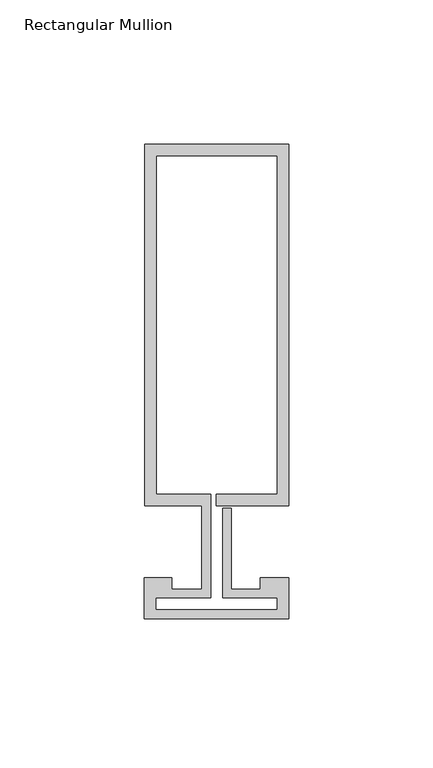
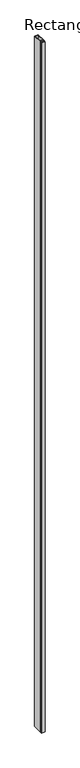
"""IFC4 building model written with IfcOpenShell, lengths in millimetres: member geometry, Rectangular Mullion : Reynaers_CW-50_Mullion-Transom_Vertical_125.5mm_Facecap-02A."""

from ifc_helpers import new_model, si_unit, frame, origin, place, context, project, spatial, polyline, outline, extrude, source, transform, mapped, element, save


def rectangular_mullion_c6ac059f(model_context):
    return source(origin(), model_context, "Body", "SweptSolid", [
        extrude(outline(polyline([(-24.8004059, 138.0), (25.1995941, 138.0), (25.1995941, 12.5), (0.0, 12.5), (0.0, 16.5), (21.1995941, 16.5), (21.1995941, 134.0), (-20.8004059, 134.0), (-20.8004059, 16.5), (-1.9004059, 16.5), (-1.9004059, -19.5), (-20.994845, -19.5), (-20.994845, -23.7191338), (21.1995941, -23.7191338), (21.1995941, -19.5), (2.2995941, -19.5), (2.2995941, 11.5), (5.2995941, 11.5), (5.2995941, -16.5), (15.2996495, -16.5), (15.2996495, -12.5), (25.1995941, -12.5), (25.1995941, -26.8), (-24.994845, -26.8), (-24.994845, -12.5), (-15.2996495, -12.5), (-15.2996495, -16.5), (-4.9004059, -16.5), (-4.9004059, 12.5), (-24.8004059, 12.5), (-24.8004059, 138.0)])), frame((0.0, 0.0, -10400.0), z_axis=(0.0, 0.0, 1.0), x_axis=(1.0, 0.0, 0.0)), (0.0, 0.0, 1.0), 10400.0),
    ])


if __name__ == "__main__":
    model = new_model("IFC4")
    model_context = context("Model", 3, world=origin())
    ifc_project = project(units=[si_unit("LENGTHUNIT", "METRE", prefix="MILLI")], contexts=[model_context])
    site = spatial("IfcSite", under=ifc_project)
    building = spatial("IfcBuilding", under=site)
    placement = place(None, origin())
    rectangular_mullion_shape = rectangular_mullion_c6ac059f(model_context)
    element("IfcMember", 1, ObjectType="Rectangular Mullion : Reynaers_CW-50_Mullion-Transom_Vertical_125.5mm_Facecap-02A", at=placement, inside=building, context=model_context, shape_type="MappedRepresentation", body=[
        mapped(rectangular_mullion_shape, transform((0.0, 0.0, 0.0), x_axis=(1.0, 0.0, 0.0), y_axis=(0.0, 1.0, 0.0), z_axis=(0.0, 0.0, 1.0))),
    ])
    save(model, "model.ifc")
